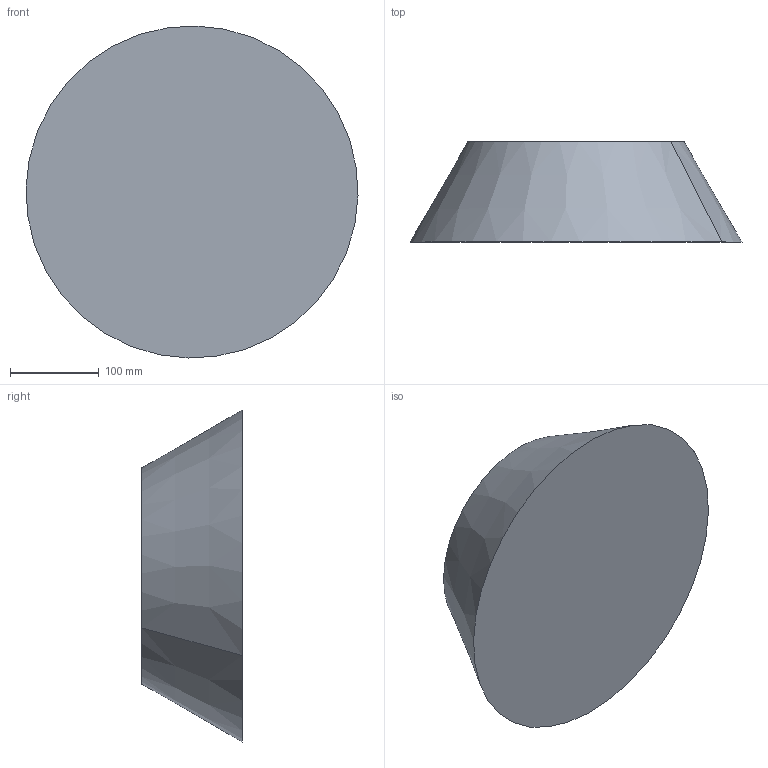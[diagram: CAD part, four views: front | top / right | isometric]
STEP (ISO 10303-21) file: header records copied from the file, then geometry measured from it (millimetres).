
FILE_DESCRIPTION(('CATIA V5 STEP Exchange'),'2;1');
FILE_NAME('C:\_Andres\UNIVERSIDAD\IQS\ASIGNATURAS\DAO\EXF\EXF-16172c\2inicio\Gumá_Abizanda_Ej09_v13.stp','2017-03-05T22:13:11+00:00',('none'),('none'),'CATIA Version 5-6 Release 2014 SP1 HF18','CATIA V5 STEP AP203','none');
FILE_SCHEMA(('CONFIG_CONTROL_DESIGN'));
Length unit declared in the file: millimetre
Products named in the file (1): Gumá_Abizanda_Ej09_v13
Bounding box: 373.9 x 113 x 373.9 mm (x, y, z)
Volume: 8578810.5 mm3; surface area: 285198.9 mm2
Topology: 1 solids, 2 shells, 8 faces, 12 edges, 8 vertices
Faces by surface type: plane 4, cone 2, cylinder 2
Entity records: 205 total; most frequent: CARTESIAN_POINT 27, DIRECTION 24, ORIENTED_EDGE 24, AXIS2_PLACEMENT_3D 15, EDGE_CURVE 12, ADVANCED_FACE 8, CIRCLE 8, EDGE_LOOP 8
